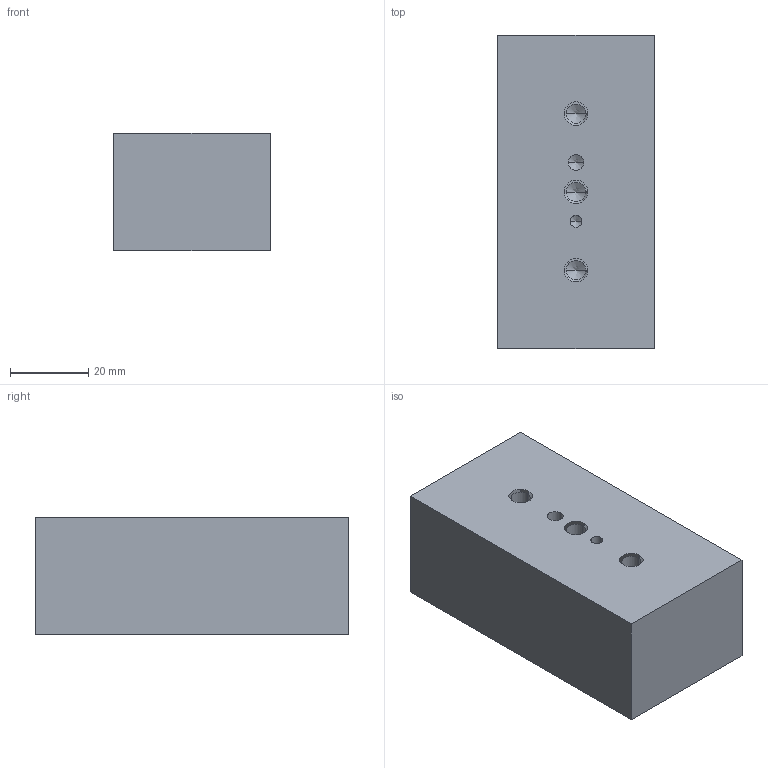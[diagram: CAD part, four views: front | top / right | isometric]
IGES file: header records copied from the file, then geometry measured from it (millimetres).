
Start section: 3D InterOp IGES (v. 2020 1.0.1), Spatial Corp. Copyright (c) 1999-2017.
Global section: file name: V92564_40_80_30.igs; native system: Spatial Corp.; preprocessor: 3D InterOp GENERIC/IGES 3.0; author: Noname; organization: Noname; date: 20201116.103527; units: metre
Bounding box: 40 x 80 x 30 mm (x, y, z)
Surface area: 14461.9 mm2 (no closed solid volume)
Topology: 0 solids, 0 shells, 41 faces, 174 edges, 164 vertices
Faces by surface type: revolution 32, extrusion 9
